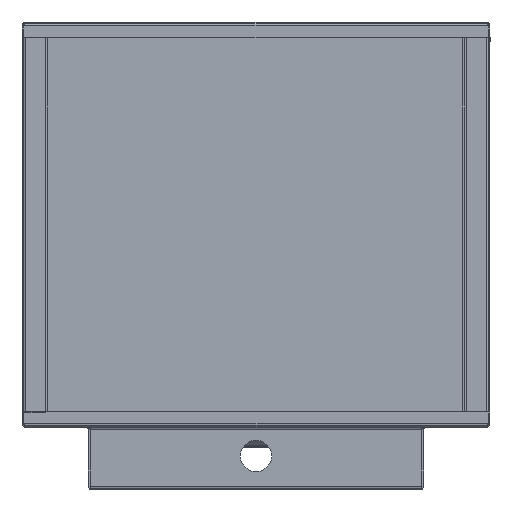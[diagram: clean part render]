
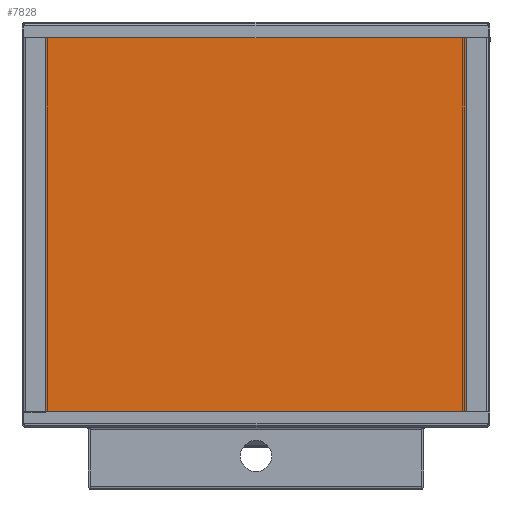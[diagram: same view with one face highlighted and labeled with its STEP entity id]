
A CAD part, left-side view. The second image highlights one B-rep face of the part: STEP entity #7828.
In plain terms, the highlighted planar face has unit normal (-1, 0, 0) as drawn and (0, -1, 0) by its records, which use the part's own axes.
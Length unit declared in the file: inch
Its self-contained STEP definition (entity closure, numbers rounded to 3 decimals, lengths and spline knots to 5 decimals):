
#1109 = CARTESIAN_POINT ( 'NONE',  ( 1.75, -0.12, 0. ) ) ;
#1846 = CARTESIAN_POINT ( 'NONE',  ( 1.75, -0.12, 0. ) ) ;
#2574 = CARTESIAN_POINT ( 'NONE',  ( 28.625, -0.12, 25.505 ) ) ;
#2896 = DIRECTION ( 'NONE',  ( -1., 0., 0. ) ) ;
#2982 = EDGE_LOOP ( 'NONE', ( #28839, #59879, #39624, #56378, #58735, #24106, #49098, #27494, #43641 ) ) ;
#4338 = DIRECTION ( 'NONE',  ( 0.555, 0., 0.832 ) ) ;
#4566 = DIRECTION ( 'NONE',  ( -1., 0., 0. ) ) ;
#4615 = CARTESIAN_POINT ( 'NONE',  ( 1.375, -0.12, 25.505 ) ) ;
#5293 = LINE ( 'NONE', #53583, #10829 ) ;
#5521 = VERTEX_POINT ( 'NONE', #19621 ) ;
#5720 = LINE ( 'NONE', #45844, #58627 ) ;
#7828 = ADVANCED_FACE ( 'NONE', ( #62207 ), #8463, .F. ) ;
#8463 = PLANE ( 'NONE',  #14157 ) ;
#8937 = VECTOR ( 'NONE', #76928, 39.37008 ) ;
#9951 = LINE ( 'NONE', #28020, #31046 ) ;
#10163 = VECTOR ( 'NONE', #42734, 39.37008 ) ;
#10829 = VECTOR ( 'NONE', #28907, 39.37008 ) ;
#11597 = CARTESIAN_POINT ( 'NONE',  ( 28.375, -0.12, 0. ) ) ;
#11725 = CARTESIAN_POINT ( 'NONE',  ( 1.375, -0.12, 0.25 ) ) ;
#12304 = EDGE_CURVE ( 'NONE', #73123, #75822, #74888, .T. ) ;
#14157 = AXIS2_PLACEMENT_3D ( 'NONE', #66948, #25762, #32444 ) ;
#14664 = VERTEX_POINT ( 'NONE', #19794 ) ;
#14778 = DIRECTION ( 'NONE',  ( 0., 0., -1. ) ) ;
#16573 = LINE ( 'NONE', #47558, #8937 ) ;
#17826 = VERTEX_POINT ( 'NONE', #58119 ) ;
#18508 = EDGE_CURVE ( 'NONE', #14664, #5521, #9951, .T. ) ;
#19621 = CARTESIAN_POINT ( 'NONE',  ( 28.25, -0.12, 25.505 ) ) ;
#19794 = CARTESIAN_POINT ( 'NONE',  ( 28.375, -0.12, 25.505 ) ) ;
#20674 = LINE ( 'NONE', #2574, #46823 ) ;
#24106 = ORIENTED_EDGE ( 'NONE', *, *, #26307, .T. ) ;
#24978 = LINE ( 'NONE', #37526, #51790 ) ;
#25762 = DIRECTION ( 'NONE',  ( 0., 1., 0. ) ) ;
#26307 = EDGE_CURVE ( 'NONE', #26642, #50317, #76886, .T. ) ;
#26642 = VERTEX_POINT ( 'NONE', #11597 ) ;
#27494 = ORIENTED_EDGE ( 'NONE', *, *, #38367, .T. ) ;
#28020 = CARTESIAN_POINT ( 'NONE',  ( 28.625, -0.12, 25.505 ) ) ;
#28839 = ORIENTED_EDGE ( 'NONE', *, *, #51008, .F. ) ;
#28907 = DIRECTION ( 'NONE',  ( -0.555, 0., 0.832 ) ) ;
#31046 = VECTOR ( 'NONE', #2896, 39.37008 ) ;
#31104 = EDGE_CURVE ( 'NONE', #75822, #45761, #60755, .T. ) ;
#32444 = DIRECTION ( 'NONE',  ( 0., 0., 1. ) ) ;
#32949 = EDGE_CURVE ( 'NONE', #26642, #45761, #5720, .T. ) ;
#37526 = CARTESIAN_POINT ( 'NONE',  ( 0., -0.12, 25.505 ) ) ;
#38367 = EDGE_CURVE ( 'NONE', #17826, #14664, #5293, .T. ) ;
#39624 = ORIENTED_EDGE ( 'NONE', *, *, #12304, .T. ) ;
#39865 = CARTESIAN_POINT ( 'NONE',  ( 28.625, -0.12, 0.375 ) ) ;
#39974 = CARTESIAN_POINT ( 'NONE',  ( 1.75, -0.12, 25.505 ) ) ;
#40365 = DIRECTION ( 'NONE',  ( 0., 0., -1. ) ) ;
#41768 = VERTEX_POINT ( 'NONE', #39974 ) ;
#42734 = DIRECTION ( 'NONE',  ( 0.832, 0., -0.555 ) ) ;
#43641 = ORIENTED_EDGE ( 'NONE', *, *, #18508, .T. ) ;
#45761 = VERTEX_POINT ( 'NONE', #1846 ) ;
#45844 = CARTESIAN_POINT ( 'NONE',  ( 0., -0.12, 0. ) ) ;
#46823 = VECTOR ( 'NONE', #14778, 39.37008 ) ;
#47558 = CARTESIAN_POINT ( 'NONE',  ( 1.75, -0.12, 25.505 ) ) ;
#47976 = EDGE_CURVE ( 'NONE', #41768, #73123, #16573, .T. ) ;
#48920 = DIRECTION ( 'NONE',  ( 1., 0., 0. ) ) ;
#49098 = ORIENTED_EDGE ( 'NONE', *, *, #65330, .F. ) ;
#50317 = VERTEX_POINT ( 'NONE', #39865 ) ;
#51008 = EDGE_CURVE ( 'NONE', #41768, #5521, #24978, .T. ) ;
#51790 = VECTOR ( 'NONE', #48920, 39.37008 ) ;
#53583 = CARTESIAN_POINT ( 'NONE',  ( 28.625, -0.12, 25.13 ) ) ;
#56378 = ORIENTED_EDGE ( 'NONE', *, *, #31104, .T. ) ;
#56741 = VECTOR ( 'NONE', #40365, 39.37008 ) ;
#58119 = CARTESIAN_POINT ( 'NONE',  ( 28.625, -0.12, 25.13 ) ) ;
#58627 = VECTOR ( 'NONE', #4566, 39.37008 ) ;
#58735 = ORIENTED_EDGE ( 'NONE', *, *, #32949, .F. ) ;
#59879 = ORIENTED_EDGE ( 'NONE', *, *, #47976, .T. ) ;
#60755 = LINE ( 'NONE', #1109, #10163 ) ;
#62207 = FACE_OUTER_BOUND ( 'NONE', #2982, .T. ) ;
#65330 = EDGE_CURVE ( 'NONE', #17826, #50317, #20674, .T. ) ;
#65526 = CARTESIAN_POINT ( 'NONE',  ( 28.625, -0.12, 0.375 ) ) ;
#66948 = CARTESIAN_POINT ( 'NONE',  ( 0., -0.12, 0. ) ) ;
#71652 = CARTESIAN_POINT ( 'NONE',  ( 1.375, -0.12, 25.255 ) ) ;
#73123 = VERTEX_POINT ( 'NONE', #71652 ) ;
#74888 = LINE ( 'NONE', #4615, #56741 ) ;
#75822 = VERTEX_POINT ( 'NONE', #11725 ) ;
#76175 = VECTOR ( 'NONE', #4338, 39.37008 ) ;
#76886 = LINE ( 'NONE', #65526, #76175 ) ;
#76928 = DIRECTION ( 'NONE',  ( -0.832, 0., -0.555 ) ) ;
